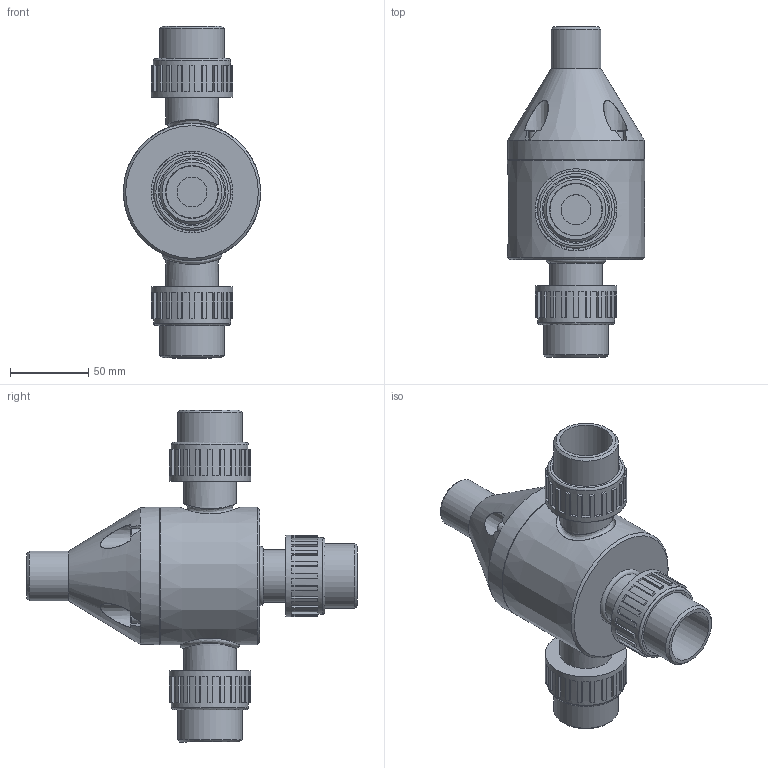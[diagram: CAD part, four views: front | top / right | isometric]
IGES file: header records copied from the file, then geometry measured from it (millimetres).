
Start section: SolidWorks IGES file using analytic representation for surfaces
Global section: file name: F:\Griffco-Valve\Griffco_current-projects\GV_web-files_2015\G Series Union\GPR1000-UNION.IGS; native system: SolidWorks 2014; preprocessor: SolidWorks 2014; author: Dan; date: 160905.051256; units: inch
Bounding box: 87.63 x 210.82 x 211.84 mm (x, y, z)
Surface area: 99437 mm2 (no closed solid volume)
Topology: 0 solids, 1 shells, 391 faces, 2010 edges, 1957 vertices
Faces by surface type: bspline 335, revolution 56
